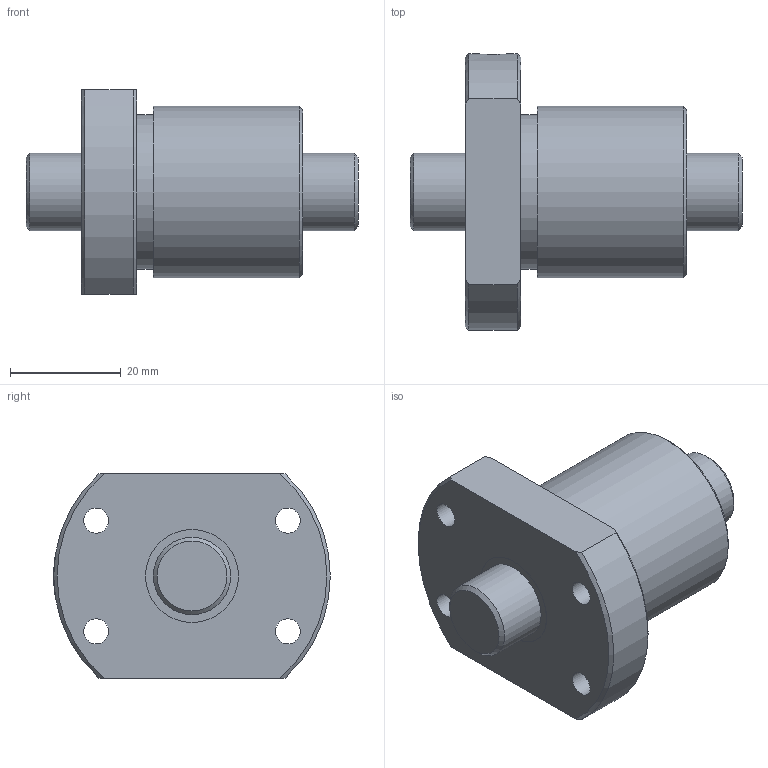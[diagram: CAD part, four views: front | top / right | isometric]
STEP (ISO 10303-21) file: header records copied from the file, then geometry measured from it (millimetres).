
FILE_DESCRIPTION(/* description */ ('STEP AP203'),/* implementation_level */ '2;1');
FILE_NAME(/* name */ 'BTK1404V-3.6ZZ+60LC7T_000',/* time_stamp */ '2025-01-16T07:55:51+01:00',/* author */ ('License CC BY-ND 4.0'),/* organization */ ('CADENAS'),/* preprocessor_version */ 'ST-DEVELOPER v19.3',/* originating_system */ 'PARTsolutions',/* authorisation */ ' ');
FILE_SCHEMA (('CONFIG_CONTROL_DESIGN'));
Length unit declared in the file: millimetre
Products named in the file (3): BTK1404V-3.6ZZ+60LC7T_000; BTK 1404V-3.600 Shaft; BTK 1404V-3.6ZZ Nut
Assembly tree (2 placements, depth 2):
  BTK1404V-3.6ZZ+60LC7T_000
    BTK 1404V-3.600 Shaft
    BTK 1404V-3.6ZZ Nut
Bounding box: 60 x 50 x 37 mm (x, y, z)
Volume: 40866.6 mm3; surface area: 12950.9 mm2
Topology: 2 solids, 2 shells, 31 faces, 66 edges, 43 vertices
Faces by surface type: cylinder 13, plane 10, cone 8
Full cylindrical faces by diameter (mm): 4.5 x4, 4.917 x1, 14 x2, 16.8 x2, 27.9 x1, 31 x1
Entity records: 887 total; most frequent: CARTESIAN_POINT 170, DIRECTION 140, ORIENTED_EDGE 100, AXIS2_PLACEMENT_3D 66, EDGE_LOOP 62, FACE_BOUND 62, EDGE_CURVE 50, VERTEX_POINT 42
